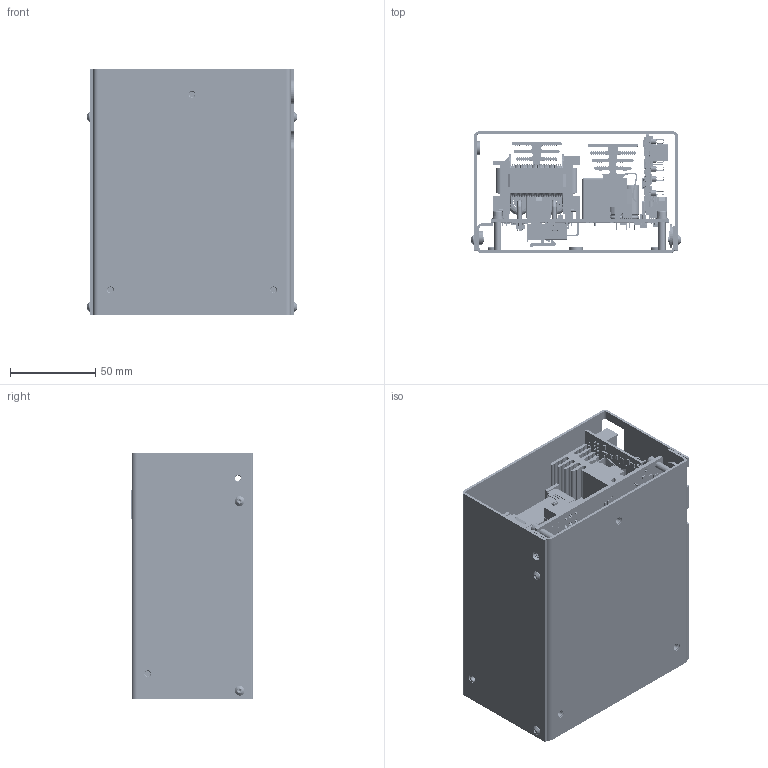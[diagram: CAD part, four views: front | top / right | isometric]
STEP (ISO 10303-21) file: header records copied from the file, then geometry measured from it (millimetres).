
FILE_DESCRIPTION (( 'STEP AP203' ), '1' );
FILE_NAME ('444.00.00.000-01 3D PCP-07.STEP', '2017-12-22T12:44:48', ( 'Serge' ), ( '' ), 'SwSTEP 2.0', 'SolidWorks 2014', '' );
FILE_SCHEMA (( 'CONFIG_CONTROL_DESIGN' ));
Length unit declared in the file: millimetre
Products named in the file (377): XD22PCPM18revB; R20ctr24revA; C75ctr24revA; C10.2PCPM18revB; Êàáåëüíûé ââîä FIX-GR-3_FIX-GR-3A; R39ctr24revA; C64ctr24revA; C10ctr24revA; C7.3ctr24revA; PA1005_XXXNL; R13ctr24revA; A3ctr24revA; Capacitor_electrolytic_pitch15-5; C12PCPM18revB; R43ctr24revA; DD3ctr24revA; C62ctr24revA; C55ctr24revA; A3PCPM18revB; Q2ctr24revA; R6.3PCPM18revB; R14ctr24revA; User_Library-ST-4EA; R59ctr24revA; C68ctr24revA; SK_489_50; R13PCPM18revB; Q52ctr24revA; C10.5PCPM18revB; SOD123; R54ctr24revA; X1ctr24revA_7; C2.1PCPM18revB; C6PCPM18revB; X5ctr24revA; C67ctr24revA; C60.2ctr24revA; C21ctr24revA; X3PCPM18revB; C73ctr24revA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
Assembly tree (712 placements, depth 5):
  444.00.00.000-01 3D PCP-07
    444.00.00.001-01 ﾎ魵瑙韃
    444.00.00.002-01 Êðûøêà
    CTR24 revA(PCA-10-300V-PD-Venus)_cor
      Boardctr24revA
      X1ctr24revA
        User_Library-PLD-20
      X1ctr24revA_2
        User_Library-PLD-20
      X1ctr24revA_3
        User_Library-PLD-20
      X1ctr24revA_4
        PLD-16
      A51ctr24revA
        User_Library-DPAK_TO-252AA
      A5ctr24revA
        User_Library-DPAK_TO-252AA
      X5ctr24revA
        PLS-1R
      X4ctr24revA
        PLS-1R
      Q53ctr24revA
        User_Library-SOT-23-3-1
          User_Library-SOT-23-3-1_SOT-23-3_Body
          User_Library-SOT-23-3-1_SOT-23-3_Foot  x3
      Q54ctr24revA
        User_Library-SOT-23-3-1
          User_Library-SOT-23-3-1_SOT-23-3_Body
          User_Library-SOT-23-3-1_SOT-23-3_Foot  x3
      Q51ctr24revA
        User_Library-SOT-23-3-1
          User_Library-SOT-23-3-1_SOT-23-3_Body
          User_Library-SOT-23-3-1_SOT-23-3_Foot  x3
      Q52ctr24revA
        User_Library-SOT-23-3-1
          User_Library-SOT-23-3-1_SOT-23-3_Body
          User_Library-SOT-23-3-1_SOT-23-3_Foot  x3
      Q4ctr24revA
        User_Library-SOT-23-3-1
          User_Library-SOT-23-3-1_SOT-23-3_Body
          User_Library-SOT-23-3-1_SOT-23-3_Foot  x3
      Q8ctr24revA
        User_Library-SOT-23-3-1
          User_Library-SOT-23-3-1_SOT-23-3_Body
          User_Library-SOT-23-3-1_SOT-23-3_Foot  x3
      Q5ctr24revA
        User_Library-SOT-23-3-1
          User_Library-SOT-23-3-1_SOT-23-3_Body
          User_Library-SOT-23-3-1_SOT-23-3_Foot  x3
      Q7ctr24revA
        User_Library-SOT-23-3-1
          User_Library-SOT-23-3-1_SOT-23-3_Body
          User_Library-SOT-23-3-1_SOT-23-3_Foot  x3
      Q6ctr24revA
        User_Library-SOT-23-3-1
          User_Library-SOT-23-3-1_SOT-23-3_Body
          User_Library-SOT-23-3-1_SOT-23-3_Foot  x3
      Q3ctr24revA
        User_Library-SOT-23-3-1
          User_Library-SOT-23-3-1_SOT-23-3_Body
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Bounding box: 123.3 x 72 x 145 mm (x, y, z)
Volume: 347051.3 mm3; surface area: 406917.1 mm2
Topology: 727 solids, 754 shells, 41475 faces, 106798 edges, 68073 vertices
Faces by surface type: plane 21368, bspline 10776, cylinder 8365, torus 680, cone 144, sphere 142
Entity records: 279974 total; most frequent: CARTESIAN_POINT 50161, DIRECTION 37863, ORIENTED_EDGE 37146, EDGE_CURVE 18585, LINE 13645, VECTOR 13645, AXIS2_PLACEMENT_3D 12109, VERTEX_POINT 11936
